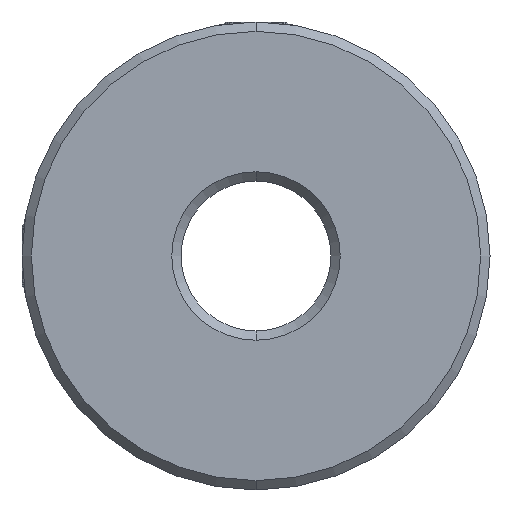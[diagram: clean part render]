
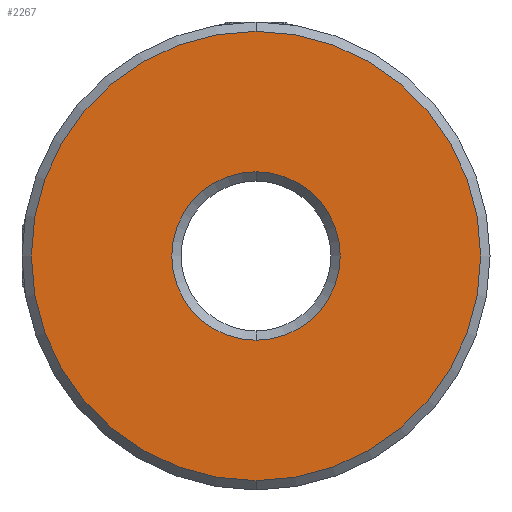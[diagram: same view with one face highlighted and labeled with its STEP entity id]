
A CAD part, front view. The second image highlights one B-rep face of the part: STEP entity #2267.
In plain terms, the highlighted planar face has unit normal (0, -1, 0).
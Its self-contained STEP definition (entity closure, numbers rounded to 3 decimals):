
#16 = DIRECTION ( 'NONE',  ( 0., 0., 1. ) ) ;
#90 = VERTEX_POINT ( 'NONE', #3650 ) ;
#100 = CIRCLE ( 'NONE', #1882, 4.5 ) ;
#132 = AXIS2_PLACEMENT_3D ( 'NONE', #135, #154, #386 ) ;
#135 = CARTESIAN_POINT ( 'NONE',  ( -10.188, -0.277, 0.046 ) ) ;
#154 = DIRECTION ( 'NONE',  ( 0., 1., 0. ) ) ;
#273 = EDGE_CURVE ( 'NONE', #3505, #2807, #726, .T. ) ;
#386 = DIRECTION ( 'NONE',  ( 0., 0., 1. ) ) ;
#500 = DIRECTION ( 'NONE',  ( 0., 0., 1. ) ) ;
#589 = DIRECTION ( 'NONE',  ( 0., -1., 0. ) ) ;
#646 = PLANE ( 'NONE',  #132 ) ;
#684 = FACE_OUTER_BOUND ( 'NONE', #2995, .T. ) ;
#726 = CIRCLE ( 'NONE', #1020, 12. ) ;
#797 = CARTESIAN_POINT ( 'NONE',  ( -10.188, -0.277, 0.046 ) ) ;
#1020 = AXIS2_PLACEMENT_3D ( 'NONE', #797, #3028, #3307 ) ;
#1215 = ORIENTED_EDGE ( 'NONE', *, *, #2584, .T. ) ;
#1334 = CARTESIAN_POINT ( 'NONE',  ( -10.188, -0.277, 0.046 ) ) ;
#1444 = CARTESIAN_POINT ( 'NONE',  ( -10.188, -0.277, 0.046 ) ) ;
#1502 = ORIENTED_EDGE ( 'NONE', *, *, #2565, .T. ) ;
#1622 = CIRCLE ( 'NONE', #1923, 12. ) ;
#1762 = FACE_BOUND ( 'NONE', #1954, .T. ) ;
#1882 = AXIS2_PLACEMENT_3D ( 'NONE', #1334, #2459, #500 ) ;
#1923 = AXIS2_PLACEMENT_3D ( 'NONE', #3651, #589, #3124 ) ;
#1954 = EDGE_LOOP ( 'NONE', ( #1215, #3119 ) ) ;
#2094 = CIRCLE ( 'NONE', #2861, 4.5 ) ;
#2267 = ADVANCED_FACE ( 'NONE', ( #684, #1762 ), #646, .F. ) ;
#2459 = DIRECTION ( 'NONE',  ( 0., 1., 0. ) ) ;
#2527 = ORIENTED_EDGE ( 'NONE', *, *, #273, .T. ) ;
#2563 = DIRECTION ( 'NONE',  ( 0., 1., 0. ) ) ;
#2565 = EDGE_CURVE ( 'NONE', #2807, #3505, #1622, .T. ) ;
#2584 = EDGE_CURVE ( 'NONE', #90, #2810, #2094, .T. ) ;
#2724 = CARTESIAN_POINT ( 'NONE',  ( -10.188, -0.277, 12.046 ) ) ;
#2807 = VERTEX_POINT ( 'NONE', #3595 ) ;
#2810 = VERTEX_POINT ( 'NONE', #3614 ) ;
#2861 = AXIS2_PLACEMENT_3D ( 'NONE', #1444, #2563, #16 ) ;
#2872 = EDGE_CURVE ( 'NONE', #2810, #90, #100, .T. ) ;
#2995 = EDGE_LOOP ( 'NONE', ( #2527, #1502 ) ) ;
#3028 = DIRECTION ( 'NONE',  ( 0., -1., 0. ) ) ;
#3119 = ORIENTED_EDGE ( 'NONE', *, *, #2872, .T. ) ;
#3124 = DIRECTION ( 'NONE',  ( 0., 0., 1. ) ) ;
#3307 = DIRECTION ( 'NONE',  ( 0., 0., 1. ) ) ;
#3505 = VERTEX_POINT ( 'NONE', #2724 ) ;
#3595 = CARTESIAN_POINT ( 'NONE',  ( -10.188, -0.277, -11.954 ) ) ;
#3614 = CARTESIAN_POINT ( 'NONE',  ( -10.188, -0.277, 4.546 ) ) ;
#3650 = CARTESIAN_POINT ( 'NONE',  ( -10.188, -0.277, -4.454 ) ) ;
#3651 = CARTESIAN_POINT ( 'NONE',  ( -10.188, -0.277, 0.046 ) ) ;
